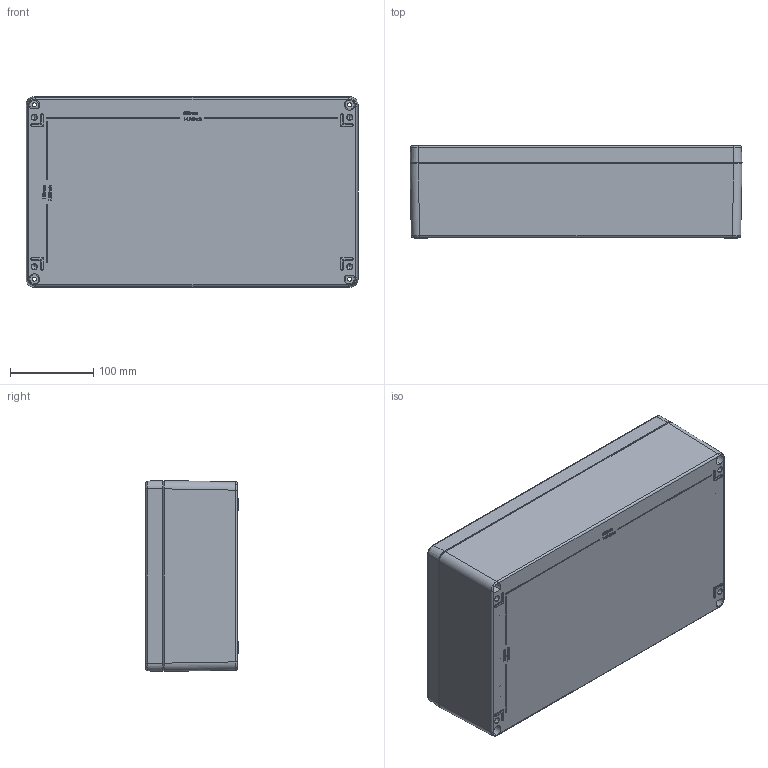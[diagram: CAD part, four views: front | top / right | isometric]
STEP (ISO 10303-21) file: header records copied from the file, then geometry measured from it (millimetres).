
FILE_DESCRIPTION (( 'STEP AP203' ), '1' );
FILE_NAME ('ALU ASSY 400230110.STEP', '2024-08-27T09:44:23', ( '' ), ( '' ), 'SwSTEP 2.0', 'SolidWorks 2018', '' );
FILE_SCHEMA (( 'CONFIG_CONTROL_DESIGN' ));
Length unit declared in the file: millimetre
Products named in the file (3): ALU ASSY 400230110; ALU LID 400230110; ALU BASE 400230110
Assembly tree (2 placements, depth 2):
  ALU ASSY 400230110
    ALU BASE 400230110
    ALU LID 400230110
Bounding box: 400 x 111 x 230 mm (x, y, z)
Volume: 1001848.5 mm3; surface area: 655317.9 mm2
Topology: 1 solids, 3 shells, 1421 faces, 3425 edges, 2101 vertices
Faces by surface type: bspline 433, plane 393, cylinder 254, cone 254, torus 87
Entity records: 67852 total; most frequent: CARTESIAN_POINT 37301, ORIENTED_EDGE 6798, DIRECTION 5468, EDGE_CURVE 3400, VERTEX_POINT 2101, AXIS2_PLACEMENT_3D 2046, EDGE_LOOP 1562, FACE_OUTER_BOUND 1421
